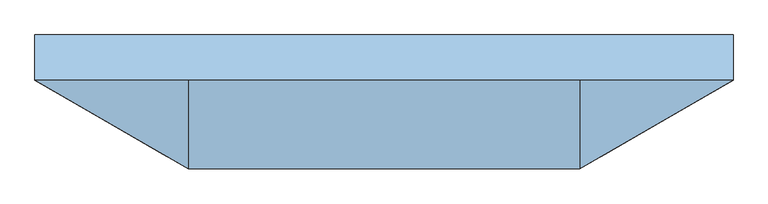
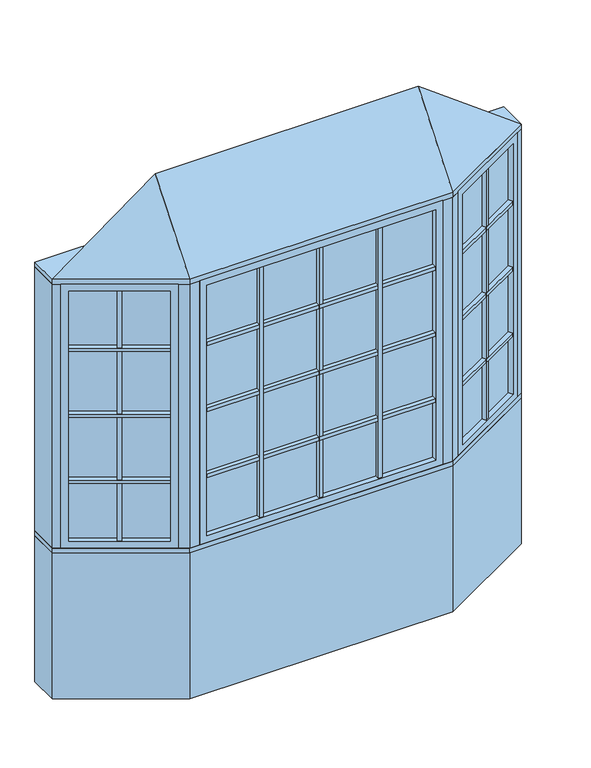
"""IFC4 building model written with IfcOpenShell, lengths in millimetres: window geometry, Pollard_Windows_Tudor Casement Bows and Bays : AML-BAY 30 AFR0614-12-500_GC."""

from ifc_helpers import new_model, si_unit, frame, origin, origin_with_axes, place, context, project, spatial, polyline, outline, extrude, faceted_brep, source, transform, mapped, element, save


def window_1a4903c0(model_context):
    return source(origin(), model_context, "Body", "SolidModel", [
        extrude(outline(polyline([(732.2305346, -327.3537343), (721.2305346, -308.3011754), (1102.1135794, -88.3982469), (1113.1135794, -107.4508058), (732.2305346, -327.3537343)])), frame((0.0, 0.0, 1490.998), z_axis=(0.0, 0.0, 1.0), x_axis=(1.0, 0.0, 0.0)), (0.0, 0.0, 1.0), 18.0),
        extrude(outline(polyline([(718.6905346, -303.9017664), (707.6905346, -284.8492075), (1088.5735794, -64.946279), (1099.5735794, -83.9988379), (718.6905346, -303.9017664)])), frame((0.0, 0.0, 1490.998), z_axis=(0.0, 0.0, 1.0), x_axis=(1.0, 0.0, 0.0)), (0.0, 0.0, 1.0), 18.0),
        extrude(outline(polyline([(732.2305346, -327.3537343), (721.2305346, -308.3011754), (1102.1135794, -88.3982469), (1113.1135794, -107.4508058), (732.2305346, -327.3537343)])), frame((0.0, 0.0, 1140.998), z_axis=(0.0, 0.0, 1.0), x_axis=(1.0, 0.0, 0.0)), (0.0, 0.0, 1.0), 18.0),
        extrude(outline(polyline([(718.6905346, -303.9017664), (707.6905346, -284.8492075), (1088.5735794, -64.946279), (1099.5735794, -83.9988379), (718.6905346, -303.9017664)])), frame((0.0, 0.0, 1140.998), z_axis=(0.0, 0.0, 1.0), x_axis=(1.0, 0.0, 0.0)), (0.0, 0.0, 1.0), 18.0),
        extrude(outline(polyline([(732.2305346, -327.3537343), (721.2305346, -308.3011754), (1102.1135794, -88.3982469), (1113.1135794, -107.4508058), (732.2305346, -327.3537343)])), frame((0.0, 0.0, 1490.998), z_axis=(0.0, 0.0, 1.0), x_axis=(1.0, 0.0, 0.0)), (0.0, 0.0, 1.0), 18.0),
        extrude(outline(polyline([(718.6905346, -303.9017664), (707.6905346, -284.8492075), (1088.5735794, -64.946279), (1099.5735794, -83.9988379), (718.6905346, -303.9017664)])), frame((0.0, 0.0, 1490.998), z_axis=(0.0, 0.0, 1.0), x_axis=(1.0, 0.0, 0.0)), (0.0, 0.0, 1.0), 18.0),
        extrude(outline(polyline([(732.2305346, -327.3537343), (721.2305346, -308.3011754), (1102.1135794, -88.3982469), (1113.1135794, -107.4508058), (732.2305346, -327.3537343)])), frame((0.0, 0.0, 1490.998), z_axis=(0.0, 0.0, 1.0), x_axis=(1.0, 0.0, 0.0)), (0.0, 0.0, 1.0), 18.0),
        extrude(outline(polyline([(718.6905346, -303.9017664), (707.6905346, -284.8492075), (1088.5735794, -64.946279), (1099.5735794, -83.9988379), (718.6905346, -303.9017664)])), frame((0.0, 0.0, 1490.998), z_axis=(0.0, 0.0, 1.0), x_axis=(1.0, 0.0, 0.0)), (0.0, 0.0, 1.0), 18.0),
        extrude(outline(polyline([(732.2305346, -327.3537343), (721.2305346, -308.3011754), (1102.1135794, -88.3982469), (1113.1135794, -107.4508058), (732.2305346, -327.3537343)])), frame((0.0, 0.0, 1840.998), z_axis=(0.0, 0.0, 1.0), x_axis=(1.0, 0.0, 0.0)), (0.0, 0.0, 1.0), 18.0),
        extrude(outline(polyline([(718.6905346, -303.9017664), (707.6905346, -284.8492075), (1088.5735794, -64.946279), (1099.5735794, -83.9988379), (718.6905346, -303.9017664)])), frame((0.0, 0.0, 1840.998), z_axis=(0.0, 0.0, 1.0), x_axis=(1.0, 0.0, 0.0)), (0.0, 0.0, 1.0), 18.0),
        extrude(outline(polyline([(919.4662856, -193.8497112), (930.4662856, -212.9022701), (914.8778284, -221.9022701), (903.8778284, -202.8497112), (919.4662856, -193.8497112)])), frame((0.0, 0.0, 835.8628), z_axis=(0.0, 0.0, 1.0), x_axis=(1.0, 0.0, 0.0)), (0.0, 0.0, 1.0), 1328.2704),
        extrude(outline(polyline([(916.9262856, -189.4503021), (901.3378284, -198.4503021), (890.3378284, -179.3977432), (905.9262856, -170.3977432), (916.9262856, -189.4503021)])), frame((0.0, 0.0, 835.8628), z_axis=(0.0, 0.0, 1.0), x_axis=(1.0, 0.0, 0.0)), (0.0, 0.0, 1.0), 1328.2704),
        extrude(outline(polyline([(1113.112102, -82.0482469), (710.2320119, -314.6511754), (707.6920119, -310.2517664), (1110.572102, -77.6488379), (1113.112102, -82.0482469)])), frame((0.0, 0.0, 823.1628), z_axis=(0.0, 0.0, 1.0), x_axis=(1.0, 0.0, 0.0)), (0.0, 0.0, 1.0), 1353.6704),
        faceted_brep([(1102.1135794, -88.3982469, 835.8628), (1114.8135794, -110.3952922, 835.8628), (1114.8135794, -110.3952922, 2164.1332), (1102.1135794, -88.3982469, 2164.1332), (1110.572102, -77.6488379, 823.1628), (1113.112102, -82.0482469, 823.1628), (1113.112102, -82.0482469, 2176.8332), (1110.572102, -77.6488379, 2176.8332), (1086.8735794, -62.0017926, 835.8628), (1099.5735794, -83.9988379, 835.8628), (1099.5735794, -83.9988379, 2164.1332), (1086.8735794, -62.0017926, 2164.1332), (1145.8734073, -92.4628922, 799.998), (1117.9334073, -44.0693926, 799.998), (1117.9334073, -44.0693926, 2199.998), (1145.8734073, -92.4628922, 2199.998), (733.9305346, -330.2982207, 2164.1332), (721.2305346, -308.3011754, 2164.1332), (710.2320119, -314.6511754, 2176.8332), (707.6920119, -310.2517664, 2176.8332), (718.6905346, -303.9017664, 2164.1332), (705.9905346, -281.9047211, 2164.1332), (674.9307067, -299.8371211, 2199.998), (702.8707067, -348.2306207, 2199.998), (733.9305346, -330.2982207, 835.8628), (721.2305346, -308.3011754, 835.8628), (710.2320119, -314.6511754, 823.1628), (707.6920119, -310.2517664, 823.1628), (718.6905346, -303.9017664, 835.8628), (705.9905346, -281.9047211, 835.8628), (674.9307067, -299.8371211, 799.998), (702.8707067, -348.2306207, 799.998)], [[[0, 1, 2, 3]], [[4, 5, 6, 7]], [[8, 9, 10, 11]], [[12, 13, 14, 15]], [[3, 2, 16, 17]], [[7, 6, 18, 19]], [[11, 10, 20, 21]], [[15, 14, 22, 23]], [[17, 16, 24, 25]], [[19, 18, 26, 27]], [[21, 20, 28, 29]], [[23, 22, 30, 31]], [[25, 24, 1, 0]], [[5, 26, 18, 6], [3, 17, 25, 0]], [[27, 26, 5, 4]], [[7, 19, 27, 4], [9, 28, 20, 10]], [[29, 28, 9, 8]], [[13, 30, 22, 14], [11, 21, 29, 8]], [[31, 30, 13, 12]], [[15, 23, 31, 12], [1, 24, 16, 2]]]),
        extrude(outline(polyline([(306.7024182, -347.8306207), (306.7024182, -369.8306207), (288.7024182, -369.8306207), (288.7024182, -347.8306207), (306.7024182, -347.8306207)])), frame((0.0, 0.0, 835.8628), z_axis=(0.0, 0.0, 1.0), x_axis=(1.0, 0.0, 0.0)), (0.0, 0.0, 1.0), 1328.2704),
        extrude(outline(polyline([(306.7024182, -342.7506207), (288.7024182, -342.7506207), (288.7024182, -320.7506207), (306.7024182, -320.7506207), (306.7024182, -342.7506207)])), frame((0.0, 0.0, 835.8628), z_axis=(0.0, 0.0, 1.0), x_axis=(1.0, 0.0, 0.0)), (0.0, 0.0, 1.0), 1328.2704),
        extrude(outline(polyline([(-288.7024182, -347.8306207), (-288.7024182, -369.8306207), (-306.7024182, -369.8306207), (-306.7024182, -347.8306207), (-288.7024182, -347.8306207)])), frame((0.0, 0.0, 835.8628), z_axis=(0.0, 0.0, 1.0), x_axis=(1.0, 0.0, 0.0)), (0.0, 0.0, 1.0), 1328.2704),
        extrude(outline(polyline([(-288.7024182, -342.7506207), (-306.7024182, -342.7506207), (-306.7024182, -320.7506207), (-288.7024182, -320.7506207), (-288.7024182, -342.7506207)])), frame((0.0, 0.0, 835.8628), z_axis=(0.0, 0.0, 1.0), x_axis=(1.0, 0.0, 0.0)), (0.0, 0.0, 1.0), 1328.2704),
        extrude(outline(polyline([(-573.7046365, -369.8306207), (-573.7046365, -347.8306207), (573.7046365, -347.8306207), (573.7046365, -369.8306207), (-573.7046365, -369.8306207)])), frame((0.0, 0.0, 1140.998), z_axis=(0.0, 0.0, 1.0), x_axis=(1.0, 0.0, 0.0)), (0.0, 0.0, 1.0), 18.0),
        extrude(outline(polyline([(-573.7046365, -342.7506207), (-573.7046365, -320.7506207), (573.7046365, -320.7506207), (573.7046365, -342.7506207), (-573.7046365, -342.7506207)])), frame((0.0, 0.0, 1140.998), z_axis=(0.0, 0.0, 1.0), x_axis=(1.0, 0.0, 0.0)), (0.0, 0.0, 1.0), 18.0),
        extrude(outline(polyline([(-573.7046365, -369.8306207), (-573.7046365, -347.8306207), (573.7046365, -347.8306207), (573.7046365, -369.8306207), (-573.7046365, -369.8306207)])), frame((0.0, 0.0, 1490.998), z_axis=(0.0, 0.0, 1.0), x_axis=(1.0, 0.0, 0.0)), (0.0, 0.0, 1.0), 18.0),
        extrude(outline(polyline([(-573.7046365, -342.7506207), (-573.7046365, -320.7506207), (573.7046365, -320.7506207), (573.7046365, -342.7506207), (-573.7046365, -342.7506207)])), frame((0.0, 0.0, 1490.998), z_axis=(0.0, 0.0, 1.0), x_axis=(1.0, 0.0, 0.0)), (0.0, 0.0, 1.0), 18.0),
        extrude(outline(polyline([(-573.7046365, -369.8306207), (-573.7046365, -347.8306207), (573.7046365, -347.8306207), (573.7046365, -369.8306207), (-573.7046365, -369.8306207)])), frame((0.0, 0.0, 1490.998), z_axis=(0.0, 0.0, 1.0), x_axis=(1.0, 0.0, 0.0)), (0.0, 0.0, 1.0), 18.0),
        extrude(outline(polyline([(-573.7046365, -342.7506207), (-573.7046365, -320.7506207), (573.7046365, -320.7506207), (573.7046365, -342.7506207), (-573.7046365, -342.7506207)])), frame((0.0, 0.0, 1490.998), z_axis=(0.0, 0.0, 1.0), x_axis=(1.0, 0.0, 0.0)), (0.0, 0.0, 1.0), 18.0),
        extrude(outline(polyline([(-573.7046365, -369.8306207), (-573.7046365, -347.8306207), (573.7046365, -347.8306207), (573.7046365, -369.8306207), (-573.7046365, -369.8306207)])), frame((0.0, 0.0, 1490.998), z_axis=(0.0, 0.0, 1.0), x_axis=(1.0, 0.0, 0.0)), (0.0, 0.0, 1.0), 18.0),
        extrude(outline(polyline([(-573.7046365, -342.7506207), (-573.7046365, -320.7506207), (573.7046365, -320.7506207), (573.7046365, -342.7506207), (-573.7046365, -342.7506207)])), frame((0.0, 0.0, 1490.998), z_axis=(0.0, 0.0, 1.0), x_axis=(1.0, 0.0, 0.0)), (0.0, 0.0, 1.0), 18.0),
        extrude(outline(polyline([(-1113.1135794, -107.4508058), (-1102.1135794, -88.3982469), (-721.2305346, -308.3011754), (-732.2305346, -327.3537343), (-1113.1135794, -107.4508058)])), frame((0.0, 0.0, 1140.998), z_axis=(0.0, 0.0, 1.0), x_axis=(1.0, 0.0, 0.0)), (0.0, 0.0, 1.0), 18.0),
        extrude(outline(polyline([(-1099.5735794, -83.9988379), (-1088.5735794, -64.946279), (-707.6905346, -284.8492075), (-718.6905346, -303.9017664), (-1099.5735794, -83.9988379)])), frame((0.0, 0.0, 1140.998), z_axis=(0.0, 0.0, 1.0), x_axis=(1.0, 0.0, 0.0)), (0.0, 0.0, 1.0), 18.0),
        extrude(outline(polyline([(-1113.1135794, -107.4508058), (-1102.1135794, -88.3982469), (-721.2305346, -308.3011754), (-732.2305346, -327.3537343), (-1113.1135794, -107.4508058)])), frame((0.0, 0.0, 1490.998), z_axis=(0.0, 0.0, 1.0), x_axis=(1.0, 0.0, 0.0)), (0.0, 0.0, 1.0), 18.0),
        extrude(outline(polyline([(-1099.5735794, -83.9988379), (-1088.5735794, -64.946279), (-707.6905346, -284.8492075), (-718.6905346, -303.9017664), (-1099.5735794, -83.9988379)])), frame((0.0, 0.0, 1490.998), z_axis=(0.0, 0.0, 1.0), x_axis=(1.0, 0.0, 0.0)), (0.0, 0.0, 1.0), 18.0),
        extrude(outline(polyline([(-1113.1135794, -107.4508058), (-1102.1135794, -88.3982469), (-721.2305346, -308.3011754), (-732.2305346, -327.3537343), (-1113.1135794, -107.4508058)])), frame((0.0, 0.0, 1490.998), z_axis=(0.0, 0.0, 1.0), x_axis=(1.0, 0.0, 0.0)), (0.0, 0.0, 1.0), 18.0),
        extrude(outline(polyline([(-1099.5735794, -83.9988379), (-1088.5735794, -64.946279), (-707.6905346, -284.8492075), (-718.6905346, -303.9017664), (-1099.5735794, -83.9988379)])), frame((0.0, 0.0, 1490.998), z_axis=(0.0, 0.0, 1.0), x_axis=(1.0, 0.0, 0.0)), (0.0, 0.0, 1.0), 18.0),
        extrude(outline(polyline([(-1113.1135794, -107.4508058), (-1102.1135794, -88.3982469), (-721.2305346, -308.3011754), (-732.2305346, -327.3537343), (-1113.1135794, -107.4508058)])), frame((0.0, 0.0, 1490.998), z_axis=(0.0, 0.0, 1.0), x_axis=(1.0, 0.0, 0.0)), (0.0, 0.0, 1.0), 18.0),
        extrude(outline(polyline([(-1099.5735794, -83.9988379), (-1088.5735794, -64.946279), (-707.6905346, -284.8492075), (-718.6905346, -303.9017664), (-1099.5735794, -83.9988379)])), frame((0.0, 0.0, 1490.998), z_axis=(0.0, 0.0, 1.0), x_axis=(1.0, 0.0, 0.0)), (0.0, 0.0, 1.0), 18.0),
        extrude(outline(polyline([(-1113.1135794, -107.4508058), (-1102.1135794, -88.3982469), (-721.2305346, -308.3011754), (-732.2305346, -327.3537343), (-1113.1135794, -107.4508058)])), frame((0.0, 0.0, 1840.998), z_axis=(0.0, 0.0, 1.0), x_axis=(1.0, 0.0, 0.0)), (0.0, 0.0, 1.0), 18.0),
        extrude(outline(polyline([(-1099.5735794, -83.9988379), (-1088.5735794, -64.946279), (-707.6905346, -284.8492075), (-718.6905346, -303.9017664), (-1099.5735794, -83.9988379)])), frame((0.0, 0.0, 1840.998), z_axis=(0.0, 0.0, 1.0), x_axis=(1.0, 0.0, 0.0)), (0.0, 0.0, 1.0), 18.0),
        extrude(outline(polyline([(-573.7046365, -369.8306207), (-573.7046365, -347.8306207), (573.7046365, -347.8306207), (573.7046365, -369.8306207), (-573.7046365, -369.8306207)])), frame((0.0, 0.0, 1840.998), z_axis=(0.0, 0.0, 1.0), x_axis=(1.0, 0.0, 0.0)), (0.0, 0.0, 1.0), 18.0),
        extrude(outline(polyline([(-573.7046365, -342.7506207), (-573.7046365, -320.7506207), (573.7046365, -320.7506207), (573.7046365, -342.7506207), (-573.7046365, -342.7506207)])), frame((0.0, 0.0, 1840.998), z_axis=(0.0, 0.0, 1.0), x_axis=(1.0, 0.0, 0.0)), (0.0, 0.0, 1.0), 18.0),
        extrude(outline(polyline([(-903.8778284, -202.8497112), (-914.8778284, -221.9022701), (-930.4662856, -212.9022701), (-919.4662856, -193.8497112), (-903.8778284, -202.8497112)])), frame((0.0, 0.0, 835.8628), z_axis=(0.0, 0.0, 1.0), x_axis=(1.0, 0.0, 0.0)), (0.0, 0.0, 1.0), 1328.2704),
        extrude(outline(polyline([(-901.3378284, -198.4503021), (-916.9262856, -189.4503021), (-905.9262856, -170.3977432), (-890.3378284, -179.3977432), (-901.3378284, -198.4503021)])), frame((0.0, 0.0, 835.8628), z_axis=(0.0, 0.0, 1.0), x_axis=(1.0, 0.0, 0.0)), (0.0, 0.0, 1.0), 1328.2704),
        extrude(outline(polyline([(9.0, -347.8306207), (9.0, -369.8306207), (-9.0, -369.8306207), (-9.0, -347.8306207), (9.0, -347.8306207)])), frame((0.0, 0.0, 835.8628), z_axis=(0.0, 0.0, 1.0), x_axis=(1.0, 0.0, 0.0)), (0.0, 0.0, 1.0), 1328.2704),
        extrude(outline(polyline([(9.0, -342.7506207), (-9.0, -342.7506207), (-9.0, -320.7506207), (9.0, -320.7506207), (9.0, -342.7506207)])), frame((0.0, 0.0, 835.8628), z_axis=(0.0, 0.0, 1.0), x_axis=(1.0, 0.0, 0.0)), (0.0, 0.0, 1.0), 1328.2704),
        extrude(outline(polyline([(-710.2320119, -314.6511754), (-1113.112102, -82.0482469), (-1110.572102, -77.6488379), (-707.6920119, -310.2517664), (-710.2320119, -314.6511754)])), frame((0.0, 0.0, 823.1628), z_axis=(0.0, 0.0, 1.0), x_axis=(1.0, 0.0, 0.0)), (0.0, 0.0, 1.0), 1353.6704),
        faceted_brep([(-718.6905346, -303.9017664, 2164.1332), (-705.9905346, -281.9047211, 2164.1332), (-705.9905346, -281.9047211, 835.8628), (-718.6905346, -303.9017664, 835.8628), (-710.2320119, -314.6511754, 2176.8332), (-707.6920119, -310.2517664, 2176.8332), (-707.6920119, -310.2517664, 823.1628), (-710.2320119, -314.6511754, 823.1628), (-733.9305346, -330.2982207, 2164.1332), (-721.2305346, -308.3011754, 2164.1332), (-721.2305346, -308.3011754, 835.8628), (-733.9305346, -330.2982207, 835.8628), (-674.9307067, -299.8371211, 2199.998), (-702.8707067, -348.2306207, 2199.998), (-702.8707067, -348.2306207, 799.998), (-674.9307067, -299.8371211, 799.998), (-1086.8735794, -62.0017926, 835.8628), (-1099.5735794, -83.9988379, 835.8628), (-1110.572102, -77.6488379, 823.1628), (-1113.112102, -82.0482469, 823.1628), (-1102.1135794, -88.3982469, 835.8628), (-1114.8135794, -110.3952922, 835.8628), (-1145.8734073, -92.4628922, 799.998), (-1117.9334073, -44.0693926, 799.998), (-1086.8735794, -62.0017926, 2164.1332), (-1099.5735794, -83.9988379, 2164.1332), (-1110.572102, -77.6488379, 2176.8332), (-1113.112102, -82.0482469, 2176.8332), (-1102.1135794, -88.3982469, 2164.1332), (-1114.8135794, -110.3952922, 2164.1332), (-1145.8734073, -92.4628922, 2199.998), (-1117.9334073, -44.0693926, 2199.998)], [[[0, 1, 2, 3]], [[4, 5, 6, 7]], [[8, 9, 10, 11]], [[12, 13, 14, 15]], [[3, 2, 16, 17]], [[7, 6, 18, 19]], [[11, 10, 20, 21]], [[15, 14, 22, 23]], [[17, 16, 24, 25]], [[19, 18, 26, 27]], [[21, 20, 28, 29]], [[23, 22, 30, 31]], [[15, 23, 31, 12], [1, 24, 16, 2]], [[25, 24, 1, 0]], [[5, 26, 18, 6], [3, 17, 25, 0]], [[27, 26, 5, 4]], [[7, 19, 27, 4], [9, 28, 20, 10]], [[29, 28, 9, 8]], [[13, 30, 22, 14], [11, 21, 29, 8]], [[31, 30, 13, 12]]]),
        extrude(outline(polyline([(586.4046365, -347.8306207), (-586.4046365, -347.8306207), (-586.4046365, -342.7506207), (586.4046365, -342.7506207), (586.4046365, -347.8306207)])), frame((0.0, 0.0, 823.1628), z_axis=(0.0, 0.0, 1.0), x_axis=(1.0, 0.0, 0.0)), (0.0, 0.0, 1.0), 1353.6704),
        faceted_brep([(573.7046365, -347.8306207, 835.8628), (573.7046365, -373.2306207, 835.8628), (573.7046365, -373.2306207, 2164.1332), (573.7046365, -347.8306207, 2164.1332), (586.4046365, -342.7506207, 823.1628), (586.4046365, -347.8306207, 823.1628), (586.4046365, -347.8306207, 2176.8332), (586.4046365, -342.7506207, 2176.8332), (573.7046365, -317.3506207, 835.8628), (573.7046365, -342.7506207, 835.8628), (573.7046365, -342.7506207, 2164.1332), (573.7046365, -317.3506207, 2164.1332), (609.5694365, -373.2306207, 799.998), (609.5694365, -317.3506207, 799.998), (609.5694365, -317.3506207, 2199.998), (609.5694365, -373.2306207, 2199.998), (-573.7046365, -373.2306207, 2164.1332), (-573.7046365, -347.8306207, 2164.1332), (-586.4046365, -347.8306207, 2176.8332), (-586.4046365, -342.7506207, 2176.8332), (-573.7046365, -342.7506207, 2164.1332), (-573.7046365, -317.3506207, 2164.1332), (-609.5694365, -317.3506207, 2199.998), (-609.5694365, -373.2306207, 2199.998), (-573.7046365, -373.2306207, 835.8628), (-573.7046365, -347.8306207, 835.8628), (-586.4046365, -347.8306207, 823.1628), (-586.4046365, -342.7506207, 823.1628), (-573.7046365, -342.7506207, 835.8628), (-573.7046365, -317.3506207, 835.8628), (-609.5694365, -317.3506207, 799.998), (-609.5694365, -373.2306207, 799.998)], [[[0, 1, 2, 3]], [[4, 5, 6, 7]], [[8, 9, 10, 11]], [[12, 13, 14, 15]], [[3, 2, 16, 17]], [[7, 6, 18, 19]], [[11, 10, 20, 21]], [[15, 14, 22, 23]], [[17, 16, 24, 25]], [[19, 18, 26, 27]], [[21, 20, 28, 29]], [[23, 22, 30, 31]], [[15, 23, 31, 12], [1, 24, 16, 2]], [[25, 24, 1, 0]], [[5, 26, 18, 6], [3, 17, 25, 0]], [[27, 26, 5, 4]], [[7, 19, 27, 4], [9, 28, 20, 10]], [[29, 28, 9, 8]], [[13, 30, 22, 14], [11, 21, 29, 8]], [[31, 30, 13, 12]]]),
        faceted_brep([(1176.5, -74.7806207, 2225.398), (659.5694365, -373.2306207, 2225.398), (-659.5694365, -373.2306207, 2225.398), (-1176.5, -74.7806207, 2225.398), (-659.5694365, -74.7806207, 2606.398), (659.5694365, -74.7806207, 2606.398)], [[[0, 1, 2, 3]], [[3, 2, 4]], [[2, 1, 5, 4]], [[1, 0, 5]], [[0, 3, 4, 5]]]),
        extrude(outline(polyline([(-1176.5, 77.6193793), (1176.5, 77.6193793), (1176.5, -74.7806207), (659.5694365, -373.2306207), (-659.5694365, -373.2306207), (-1176.5, -74.7806207), (-1176.5, 77.6193793)])), frame((0.0, 0.0, 2199.998), z_axis=(0.0, 0.0, 1.0), x_axis=(1.0, 0.0, 0.0)), (0.0, 0.0, 1.0), 25.4),
        extrude(outline(polyline([(-1176.5, -74.7806207), (-1176.5, 77.6193793), (-1135.6645431, 77.6193793), (-1135.6645431, -74.7806207), (-1145.8734073, -92.4628922), (-1176.5, -74.7806207)])), frame((0.0, 0.0, 799.998), z_axis=(0.0, 0.0, 1.0), x_axis=(1.0, 0.0, 0.0)), (0.0, 0.0, 1.0), 1400.0),
        extrude(outline(polyline([(1176.5, 77.6193793), (1176.5, -74.7806207), (1145.8734073, -92.4628922), (1135.6645431, -74.7806207), (1135.6645431, 77.6193793), (1176.5, 77.6193793)])), frame((0.0, 0.0, 799.998), z_axis=(0.0, 0.0, 1.0), x_axis=(1.0, 0.0, 0.0)), (0.0, 0.0, 1.0), 1400.0),
        extrude(outline(polyline([(659.5694365, -373.2306207), (609.5694365, -373.2306207), (609.5694365, -323.2306207), (646.1719769, -323.2306207), (677.8707067, -304.9293505), (702.8707067, -348.2306207), (659.5694365, -373.2306207)])), frame((0.0, 0.0, 799.998), z_axis=(0.0, 0.0, 1.0), x_axis=(1.0, 0.0, 0.0)), (0.0, 0.0, 1.0), 1400.0),
        extrude(outline(polyline([(-659.5694365, -373.2306207), (-702.8707067, -348.2306207), (-677.8707067, -304.9293505), (-646.1719769, -323.2306207), (-609.5694365, -323.2306207), (-609.5694365, -373.2306207), (-659.5694365, -373.2306207)])), frame((0.0, 0.0, 799.998), z_axis=(0.0, 0.0, 1.0), x_axis=(1.0, 0.0, 0.0)), (0.0, 0.0, 1.0), 1400.0),
        extrude(outline(polyline([(-659.5694365, -373.2306207), (-1176.5, -74.7806207), (-1176.5, 77.6193793), (-1135.6645431, 77.6193793), (-618.7339796, -220.8306207), (618.7339796, -220.8306207), (1135.6645431, 77.6193793), (1176.5, 77.6193793), (1176.5, -74.7806207), (659.5694365, -373.2306207), (-659.5694365, -373.2306207)])), frame((0.0, 0.0, 774.598), z_axis=(0.0, 0.0, 1.0), x_axis=(1.0, 0.0, 0.0)), (0.0, 0.0, 1.0), 25.4),
        extrude(outline(polyline([(-1176.5, -74.7806207), (-1176.5, 77.6193793), (-1135.6645431, 77.6193793), (-618.7339796, -220.8306207), (618.7339796, -220.8306207), (1135.6645431, 77.6193793), (1176.5, 77.6193793), (1176.5, -74.7806207), (659.5694365, -373.2306207), (-659.5694365, -373.2306207), (-1176.5, -74.7806207)])), origin_with_axes(), (0.0, 0.0, 1.0), 774.598),
    ])


if __name__ == "__main__":
    model = new_model("IFC4")
    model_context = context("Model", 3, world=origin())
    ifc_project = project(units=[si_unit("LENGTHUNIT", "METRE", prefix="MILLI")], contexts=[model_context])
    site = spatial("IfcSite", under=ifc_project)
    building = spatial("IfcBuilding", under=site)
    placement = place(None, origin())
    window_shape = window_1a4903c0(model_context)
    element("IfcWindow", 1, ObjectType="Pollard_Windows_Tudor Casement Bows and Bays : AML-BAY 30 AFR0614-12-500_GC", at=placement, inside=building, context=model_context, shape_type="MappedRepresentation", body=[
        mapped(window_shape, transform((0.0, 0.0, 0.0), x_axis=(1.0, 0.0, 0.0), y_axis=(0.0, 1.0, 0.0), z_axis=(0.0, 0.0, 1.0))),
    ])
    save(model, "model.ifc")
